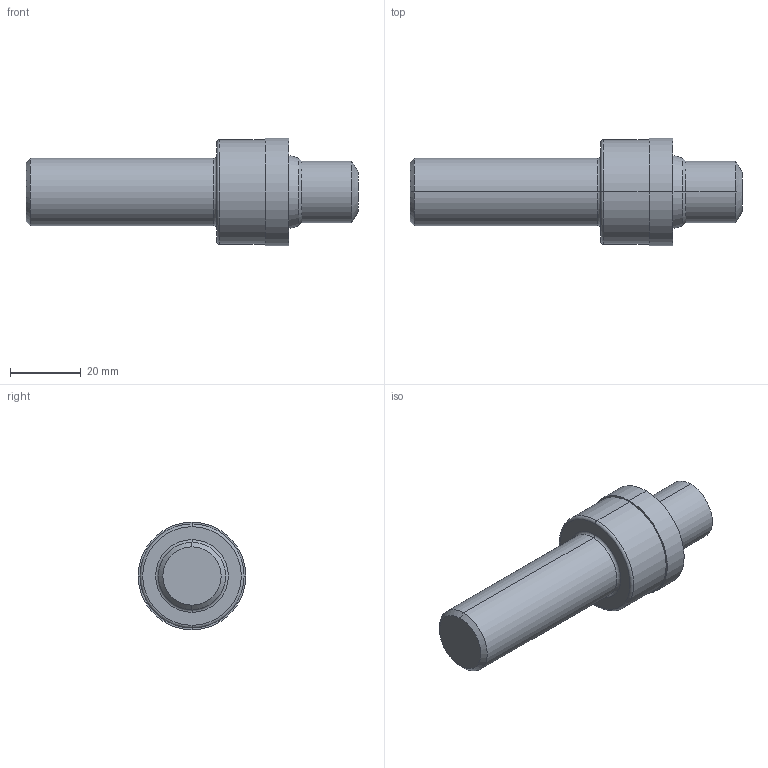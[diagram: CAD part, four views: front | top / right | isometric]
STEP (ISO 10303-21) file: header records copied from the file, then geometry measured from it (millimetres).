
FILE_DESCRIPTION (( 'STEP AP214' ), '1' );
FILE_NAME ('MS16142-8R-SolidModel.STEP', '2017-11-01T18:07:00', ( '' ), ( '' ), 'SwSTEP 2.0', 'SolidWorks 2017', '' );
FILE_SCHEMA (( 'AUTOMOTIVE_DESIGN' ));
Length unit declared in the file: inch
Products named in the file (1): MS16142-8R-SolidModel
Bounding box: 93.98 x 30.43 x 30.43 mm (x, y, z)
Volume: 34357.2 mm3; surface area: 7453.2 mm2
Topology: 1 solids, 1 shells, 25 faces, 48 edges, 28 vertices
Faces by surface type: cone 8, cylinder 8, plane 5, torus 4
Entity records: 678 total; most frequent: DIRECTION 132, CARTESIAN_POINT 102, ORIENTED_EDGE 96, AXIS2_PLACEMENT_3D 58, EDGE_CURVE 48, CIRCLE 32, VERTEX_POINT 28, EDGE_LOOP 28
